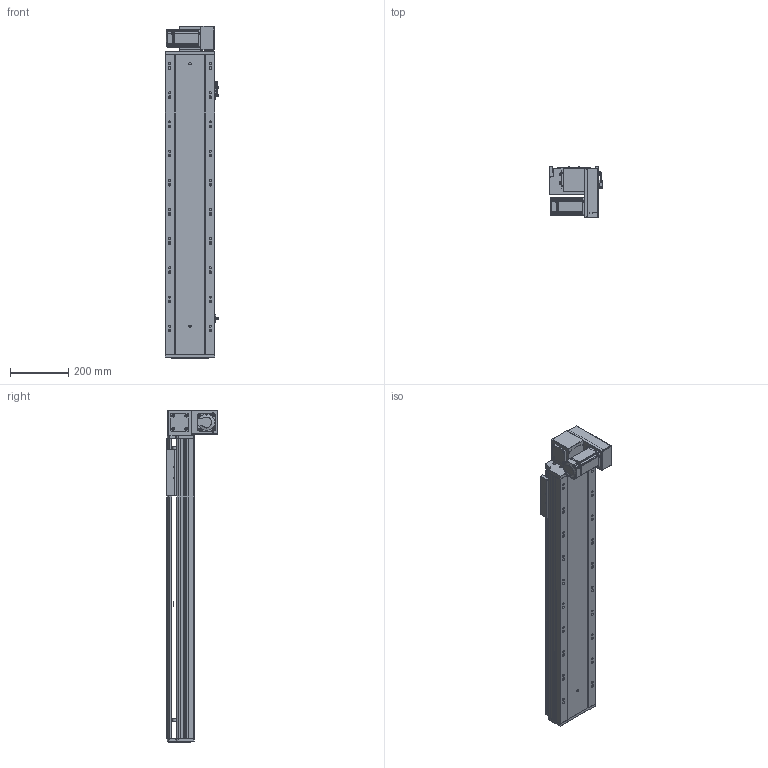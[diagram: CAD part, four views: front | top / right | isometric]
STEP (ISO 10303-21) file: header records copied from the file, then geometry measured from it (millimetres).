
FILE_DESCRIPTION (( 'STEP AP203' ), '1' );
FILE_NAME ('RY170-T-300-DR-P400W.SLDASM_750.step', '2021-03-01T08:23:11', ( '盈信电脑' ), ( '东莞市道滘镇水果街19号' ), 'SwSTEP 2.0', 'SolidWorks 2012', '' );
FILE_SCHEMA (( 'CONFIG_CONTROL_DESIGN' ));
Products named in the file (19): RY170-T蹟翐M4; RY170-T-呴雄粣揤踡啣; 滅袉蝶18-10; RY170-T肮祭謫裔啣; RY170-T肮祭湍揤踡輸2; RY120-T主同步轮轴承压盖; RY170-T肮祭湍揤踡輸1; RY170翋肮祭謫釱; RY170肮祭謫ヶ裔啣; RY170同步轮电机安装板(400W); RY170肮祭謫萇儂欶; RY170-T-300肮祭謫倰第裔啣-DR_750; RY170外置感应片(200共用）; 覜茼ん672; RY170綴裔啣; RY170-T-300肮祭謫倰第菁釱-DR_750; RY170肮祭湍臏賑輸; 15; RY170-T-300-DR-P400W.SLDASM_750
Assembly tree (23 placements, depth 2):
  RY170-T-300-DR-P400W.SLDASM_750
    RY170-T-300肮祭謫倰第菁釱-DR_750
    RY170肮祭湍臏賑輸
    RY170-T-300肮祭謫倰第裔啣-DR_750
    RY170綴裔啣
    覜茼ん672  x3
    RY170外置感应片(200共用）
    RY170肮祭謫ヶ裔啣
    RY170翋肮祭謫釱
    RY170同步轮电机安装板(400W)
    RY170肮祭謫萇儂欶
    RY170-T肮祭湍揤踡輸1  x2
    RY170-T肮祭湍揤踡輸2  x2
    RY120-T主同步轮轴承压盖
    RY170-T肮祭謫裔啣
    RY170-T蹟翐M4
    滅袉蝶18-10  x2
    RY170-T-呴雄粣揤踡啣
    15
Bounding box: 183.7 x 178 x 1138 mm (x, y, z)
Volume: 5855802.1 mm3; surface area: 1979155 mm2
Topology: 23 solids, 23 shells, 2806 faces, 7862 edges, 5063 vertices
Faces by surface type: cylinder 1282, plane 1270, cone 224, bspline 30
Entity records: 85189 total; most frequent: CARTESIAN_POINT 19558, ORIENTED_EDGE 13456, DIRECTION 13062, EDGE_CURVE 6728, AXIS2_PLACEMENT_3D 4597, VERTEX_POINT 4419, LINE 3868, VECTOR 3868
